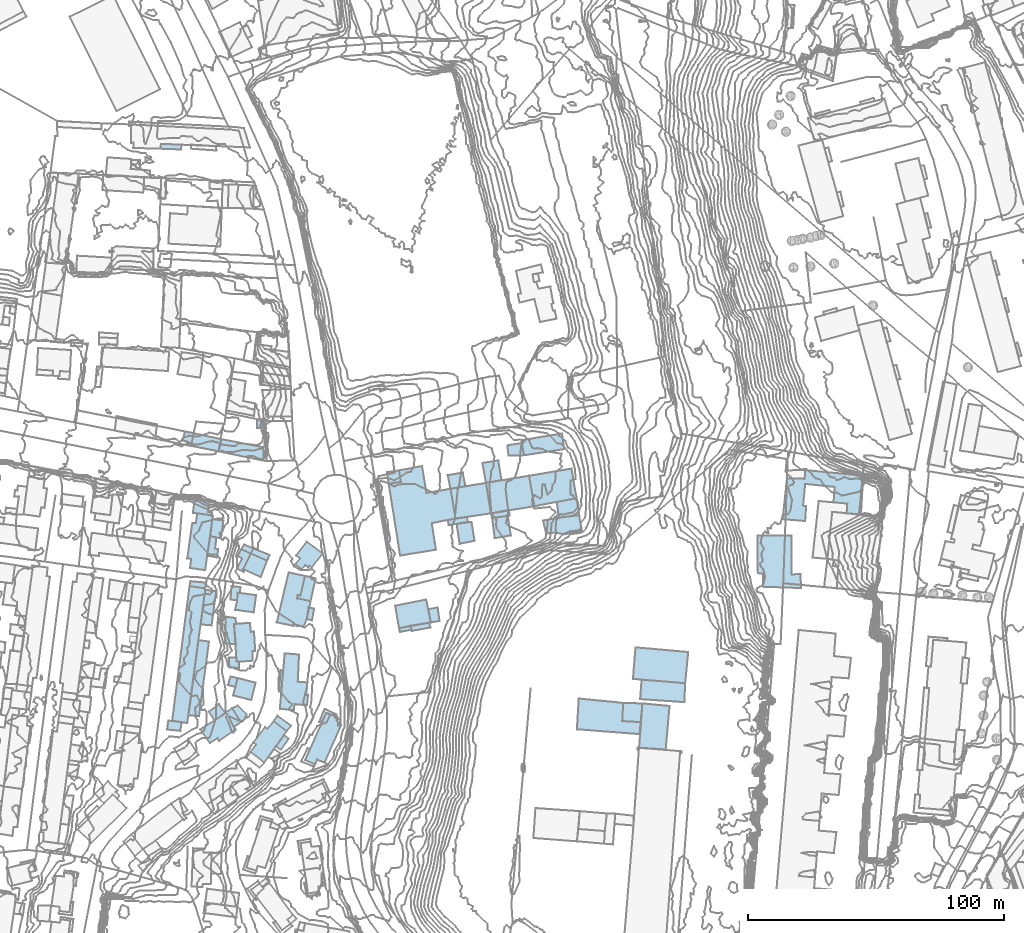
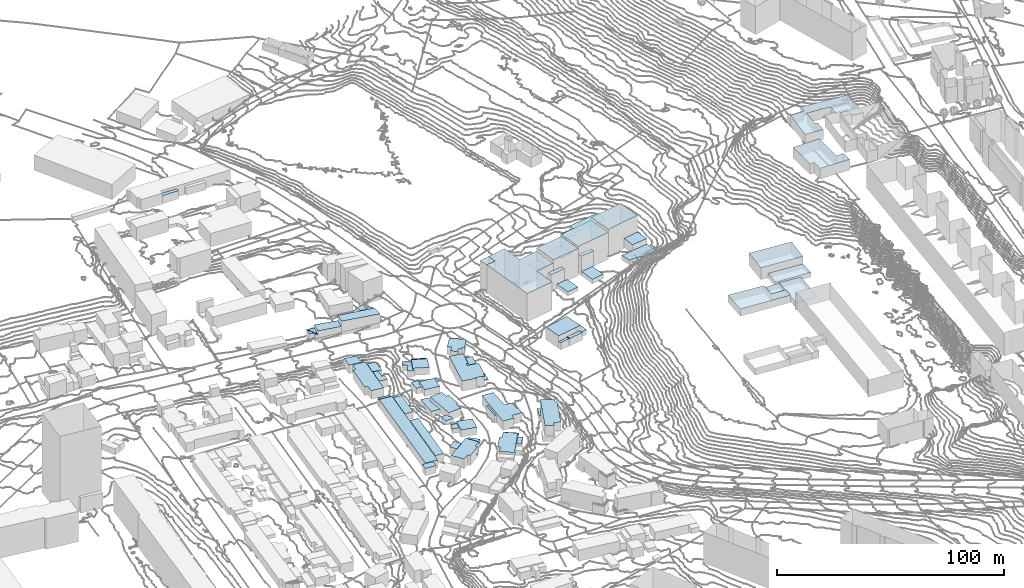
# Not in any storey, part 92 of 419: 65 roofs.
"""IFC2X3 model written with IfcOpenShell, lengths in metres."""

from ifc_helpers import new_model, si_unit, frame, origin_with_axes, place, context, subcontext, project, faceted_brep, element, save


model = new_model("IFC2X3")

# Units and contexts
model_context = context("Model", 3, precision=1e-05, world=origin_with_axes())
body_context = subcontext(model_context, "Body", "Model", "MODEL_VIEW")
ifc_project = project(units=[si_unit("AREAUNIT", "SQUARE_METRE"), si_unit("LENGTHUNIT", "METRE")], contexts=[model_context])

# Roofs
roof_1_placement = place(None, frame((586.9920204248, 808.9976909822, 41.813999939), z_axis=(0.0, 0.0, 1.0), x_axis=(1.0, 0.0, 0.0)))
element("IfcRoof", 1, at=roof_1_placement, Name="Toiture 0", ShapeType="NOTDEFINED", context=body_context, shape_type="Brep", body=[
    faceted_brep([(3.7, 7.2000000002, 4.086000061), (1.2999999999, 7.6000000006, 4.086000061), (0.0, 0.0, 4.086000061), (4.0, -0.5999999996, 4.086000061), (4.4, 2.6000000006, 4.086000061), (3.2, 2.8000000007, 4.086000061)], [[[0, 1, 2]], [[2, 3, 4]], [[5, 0, 2]], [[2, 4, 5]]]),
])
roof_2_placement = place(None, frame((615.4920204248, 749.1976909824, 45.7645987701), z_axis=(0.0, 0.0, 1.0), x_axis=(1.0, 0.0, 0.0)))
element("IfcRoof", 2, at=roof_2_placement, Name="Toiture 0", ShapeType="NOTDEFINED", context=body_context, shape_type="Brep", body=[
    faceted_brep([(1.9, 21.7000000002, 4.9354012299), (1.2999999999, 15.0, 4.9354012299), (0.0, 0.0, 4.9354012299), (5.5, -0.5, 4.9354012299), (5.7, 1.7999999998, 4.9354012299), (10.6, 1.4000000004, 4.9354012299), (11.0, 5.4000000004, 4.9354012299), (10.4, 5.4000000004, 4.9354012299), (10.7, 10.2999999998, 4.9354012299), (7.0, 10.6000000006, 4.9354012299), (7.5, 21.2000000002, 4.9354012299)], [[[0, 1, 2]], [[2, 3, 4]], [[4, 5, 6]], [[7, 8, 9]], [[9, 10, 0]], [[0, 2, 4]], [[4, 6, 7]], [[9, 0, 4]], [[4, 7, 9]]]),
])
roof_3_placement = place(None, frame((625.3920204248, 729.1976909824, 48.9099983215), z_axis=(0.0, 0.0, 1.0), x_axis=(1.0, 0.0, 0.0)))
element("IfcRoof", 3, at=roof_3_placement, Name="Toiture 0", ShapeType="NOTDEFINED", context=body_context, shape_type="Brep", body=[
    faceted_brep([(4.7, 0.1000000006, 7.9900016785), (7.6, -1.0, 7.9900016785), (14.0, 13.7000000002, 7.9900016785), (13.2, 13.9000000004, 7.9900016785), (13.8999999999, 15.5, 7.9900016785), (11.7, 16.5, 7.9900016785), (11.8999999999, 17.0, 7.9900016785), (8.2, 18.4000000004, 7.9900016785), (0.0, 0.0, 7.9900016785), (3.7, -1.7000000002, 7.9900016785)], [[[0, 1, 2]], [[3, 4, 5]], [[5, 6, 7]], [[7, 8, 9]], [[0, 2, 3]], [[3, 5, 7]], [[7, 9, 0]], [[0, 3, 7]]]),
])
roof_4_placement = place(None, frame((580.1920204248, 797.0976909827, 41.4371005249), z_axis=(0.0, 0.0, 1.0), x_axis=(1.0, 0.0, 0.0)))
element("IfcRoof", 4, at=roof_4_placement, Name="Toiture 0", ShapeType="NOTDEFINED", context=body_context, shape_type="Brep", body=[
    faceted_brep([(0.3, 2.0, 3.7628994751), (0.0, 0.0, 3.7628994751), (6.1, -0.7999999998, 3.7628994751), (6.4, 1.3999999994, 3.7628994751)], [[[0, 1, 2]], [[2, 3, 0]]]),
])
roof_5_placement = place(None, frame((811.9920204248, 823.2976909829, 85.8652003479), z_axis=(0.0, 0.0, 1.0), x_axis=(1.0, 0.0, 0.0)))
element("IfcRoof", 5, at=roof_5_placement, Name="Toiture 0", ShapeType="NOTDEFINED", context=body_context, shape_type="Brep", body=[
    faceted_brep([(1.7, 15.8999999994, 5.2347996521), (0.0, 0.0, 5.2347996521), (8.7999999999, -0.7000000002, 5.2347996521), (9.2, 5.0999999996, 5.2347996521), (8.0, 5.2999999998, 5.2347996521), (20.2999999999, 12.5999999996, 5.2347996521), (19.9, 6.5999999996, 5.2347996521), (25.2999999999, 6.0999999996, 5.2347996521), (25.0, 2.2999999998, 5.2347996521), (30.6, 1.6999999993, 5.2347996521), (31.5, 17.0, 5.2347996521), (8.7999999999, 19.1999999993, 5.2347996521), (8.6, 15.7999999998, 5.2347996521), (8.7999999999, 13.7999999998, 5.2347996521)], [[[0, 1, 2]], [[2, 3, 4]], [[5, 6, 7]], [[7, 8, 9]], [[10, 11, 12]], [[0, 2, 4]], [[5, 7, 9]], [[12, 0, 4]], [[5, 9, 10]], [[12, 4, 13]], [[13, 5, 10]], [[10, 12, 13]]]),
])
roof_6_placement = place(None, frame((660.5920204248, 789.4976909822, 54.3660003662), z_axis=(0.0, 0.0, 1.0), x_axis=(1.0, 0.0, 0.0)))
element("IfcRoof", 6, at=roof_6_placement, Name="Toiture 0", ShapeType="NOTDEFINED", context=body_context, shape_type="Brep", body=[
    faceted_brep([(0.0, 0.0, 6.7339996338), (1.5, -8.7999999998, 6.7339996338), (13.9, -6.5, 6.7339996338), (12.1, 2.4000000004, 6.7339996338)], [[[0, 1, 2]], [[2, 3, 0]]]),
])
roof_7_placement = place(None, frame((606.4920204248, 862.0976909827, 44.4979988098), z_axis=(0.0, 0.0, 1.0), x_axis=(1.0, 0.0, 0.0)))
element("IfcRoof", 7, at=roof_7_placement, Name="Toiture 0", ShapeType="NOTDEFINED", context=body_context, shape_type="Brep", body=[
    faceted_brep([(3.5, -3.0, 2.0020011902), (3.2999999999, 0.5, 2.0020011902), (0.0, 0.0, 2.0020011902), (0.1, -3.1000000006, 2.0020011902)], [[[0, 1, 2]], [[2, 3, 0]]]),
])
roof_8_placement = place(None, frame((753.4920204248, 760.8976909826, 71.2763980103), z_axis=(0.0, 0.0, 1.0), x_axis=(1.0, 0.0, 0.0)))
element("IfcRoof", 8, at=roof_8_placement, Name="Toiture 0", ShapeType="NOTDEFINED", context=body_context, shape_type="Brep", body=[
    faceted_brep([(0.0, 0.0, 6.5236019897), (3.4, -0.2999999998, 6.5236019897), (20.4, -1.7000000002, 6.5236019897), (21.6, 10.5, 6.5236019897), (1.0, 12.2999999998, 6.5236019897)], [[[0, 1, 2]], [[2, 3, 4]], [[4, 0, 2]]]),
])
roof_9_placement = place(None, frame((588.2920204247, 816.5976909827, 42.0689992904), z_axis=(0.0, 0.0, 1.0), x_axis=(1.0, 0.0, 0.0)))
element("IfcRoof", 9, at=roof_9_placement, Name="Toiture 0", ShapeType="NOTDEFINED", context=body_context, shape_type="Brep", body=[
    faceted_brep([(5.1000000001, 6.2000000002, 3.7310007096), (0.8, 6.7000000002, 3.7310007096), (0.0, 0.0, 3.7310007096), (4.2000000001, -0.7999999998, 3.7310007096)], [[[0, 1, 2]], [[2, 3, 0]]]),
])
roof_10_placement = place(None, frame((579.7920204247, 746.6976909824, 41.7746002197), z_axis=(0.0, 0.0, 1.0), x_axis=(1.0, 0.0, 0.0)))
element("IfcRoof", 10, at=roof_10_placement, Name="Toiture 0", ShapeType="NOTDEFINED", context=body_context, shape_type="Brep", body=[
    faceted_brep([(3.9, 29.2999999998, 4.3253997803), (0.0, 0.0, 4.3253997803), (4.1000000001, -0.2999999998, 4.3253997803), (8.0, 28.7999999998, 4.3253997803)], [[[0, 1, 2]], [[2, 3, 0]]]),
])
roof_11_placement = place(None, frame((579.2920204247, 807.9976909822, 41.4112002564), z_axis=(0.0, 0.0, 1.0), x_axis=(1.0, 0.0, 0.0)))
element("IfcRoof", 11, at=roof_11_placement, Name="Toiture 0", ShapeType="NOTDEFINED", context=body_context, shape_type="Brep", body=[
    faceted_brep([(10.0, 16.6000000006, 4.5887997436), (9.4, 16.8000000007, 4.5887997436), (3.9, 17.6000000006, 4.5887997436), (3.4, 13.8000000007, 4.5887997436), (2.0, 13.9000000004, 4.5887997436), (0.0, 0.0, 4.5887997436), (1.5, -0.1999999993, 4.5887997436), (1.1000000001, -3.7999999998, 4.5887997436), (7.0, -4.5999999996, 4.5887997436)], [[[0, 1, 2]], [[3, 4, 5]], [[6, 7, 8]], [[8, 0, 2]], [[3, 5, 6]], [[8, 2, 3]], [[3, 6, 8]]]),
])
roof_12_placement = place(None, frame((666.6920204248, 781.6976909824, 54.5365005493), z_axis=(0.0, 0.0, 1.0), x_axis=(1.0, 0.0, 0.0)))
element("IfcRoof", 12, at=roof_12_placement, Name="Toiture 0", ShapeType="NOTDEFINED", context=body_context, shape_type="Brep", body=[
    faceted_brep([(0.0, 0.0, 3.9634994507), (0.3, -1.5999999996, 3.9634994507), (0.4, -2.0, 3.9634994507), (7.6, -0.7000000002, 3.9634994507), (7.2000000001, 1.2000000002, 3.9634994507)], [[[0, 1, 2]], [[2, 3, 4]], [[4, 0, 2]]]),
])
roof_13_placement = place(None, frame((630.8920204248, 743.9976909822, 48.7660001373), z_axis=(0.0, 0.0, 1.0), x_axis=(1.0, 0.0, 0.0)))
element("IfcRoof", 13, at=roof_13_placement, Name="Toiture 0", ShapeType="NOTDEFINED", context=body_context, shape_type="Brep", body=[
    faceted_brep([(2.7, 3.6000000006, 2.7339998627), (6.3999999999, 2.2000000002, 2.7339998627), (6.7999999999, 3.0, 2.7339998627), (2.0, 5.2000000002, 2.7339998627), (0.0, 0.0, 2.7339998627), (0.7999999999, -0.2999999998, 2.7339998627)], [[[0, 1, 2]], [[3, 4, 5]], [[0, 2, 3]], [[3, 5, 0]]]),
])
roof_14_placement = place(None, frame((595.5920204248, 769.1976909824, 45.8778006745), z_axis=(0.0, 0.0, 1.0), x_axis=(1.0, 0.0, 0.0)))
element("IfcRoof", 14, at=roof_14_placement, Name="Toiture 0", ShapeType="NOTDEFINED", context=body_context, shape_type="Brep", body=[
    faceted_brep([(4.0, -4.0, 2.1221993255), (4.0, -1.5999999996, 2.1221993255), (3.0, -1.5999999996, 2.1221993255), (3.0, 0.0, 2.1221993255), (0.0, 0.0, 2.1221993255), (0.2, -3.8999999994, 2.1221993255)], [[[0, 1, 2]], [[2, 3, 4]], [[4, 5, 0]], [[0, 2, 4]]]),
])
roof_15_placement = place(None, frame((613.8920204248, 734.4976909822, 45.300499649), z_axis=(0.0, 0.0, 1.0), x_axis=(1.0, 0.0, 0.0)))
element("IfcRoof", 15, at=roof_15_placement, Name="Toiture 0", ShapeType="NOTDEFINED", context=body_context, shape_type="Brep", body=[
    faceted_brep([(5.0, 3.0, 2.699500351), (3.2999999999, 4.4000000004, 2.699500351), (0.0, 0.0, 2.699500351), (1.8999999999, -1.2999999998, 2.699500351)], [[[0, 1, 2]], [[2, 3, 0]]]),
])
roof_16_placement = place(None, frame((596.7920204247, 749.4976909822, 44.927999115), z_axis=(0.0, 0.0, 1.0), x_axis=(1.0, 0.0, 0.0)))
element("IfcRoof", 16, at=roof_16_placement, Name="Toiture 0", ShapeType="NOTDEFINED", context=body_context, shape_type="Brep", body=[
    faceted_brep([(2.1000000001, 0.9000000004, 2.172000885), (0.0, 0.0, 2.172000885), (3.6000000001, -5.3999999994, 2.172000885), (5.0, -4.0999999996, 2.172000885), (5.6000000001, -2.5999999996, 2.172000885)], [[[0, 1, 2]], [[2, 3, 4]], [[4, 0, 2]]]),
])
roof_17_placement = place(None, frame((622.1920204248, 792.3976909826, 47.4609009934), z_axis=(0.0, 0.0, 1.0), x_axis=(1.0, 0.0, 0.0)))
element("IfcRoof", 17, at=roof_17_placement, Name="Toiture 0", ShapeType="NOTDEFINED", context=body_context, shape_type="Brep", body=[
    faceted_brep([(7.3, 7.7999999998, 2.2390990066), (3.1, 8.7000000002, 2.2390990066), (1.3, 1.0, 2.2390990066), (0.3, 1.2000000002, 2.2390990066), (0.0, 0.0, 2.2390990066), (5.3, -1.0999999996, 2.2390990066)], [[[0, 1, 2]], [[2, 3, 4]], [[5, 0, 2]], [[2, 4, 5]]]),
])
roof_18_placement = place(None, frame((568.7920204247, 968.0976909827, 51.176399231), z_axis=(0.0, 0.0, 1.0), x_axis=(1.0, 0.0, 0.0)))
element("IfcRoof", 18, at=roof_18_placement, Name="Toiture 0", ShapeType="NOTDEFINED", context=body_context, shape_type="Brep", body=[
    faceted_brep([(8.0, -0.2999999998, 4.323600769), (8.3, 1.5999999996, 4.323600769), (0.2000000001, 1.8999999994, 4.323600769), (0.0, 0.0, 4.323600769)], [[[0, 1, 2]], [[2, 3, 0]]]),
])
roof_19_placement = place(None, frame((604.0920204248, 809.8976909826, 47.4525003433), z_axis=(0.0, 0.0, 1.0), x_axis=(1.0, 0.0, 0.0)))
element("IfcRoof", 19, at=roof_19_placement, Name="Toiture 0", ShapeType="NOTDEFINED", context=body_context, shape_type="Brep", body=[
    faceted_brep([(0.0, 0.0, 2.3474996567), (6.4, -2.7999999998, 2.3474996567), (7.3, -0.5999999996, 2.3474996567), (1.0, 2.0, 2.3474996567)], [[[0, 1, 2]], [[2, 3, 0]]]),
])
roof_20_placement = place(None, frame((684.5920204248, 821.3976909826, 54.2764006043), z_axis=(0.0, 0.0, 1.0), x_axis=(1.0, 0.0, 0.0)))
element("IfcRoof", 20, at=roof_20_placement, Name="Toiture 0", ShapeType="NOTDEFINED", context=body_context, shape_type="Brep", body=[
    faceted_brep([(5.8, 0.9000000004, 2.1235993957), (0.0, 0.0, 2.1235993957), (1.2, -7.7000000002, 2.1235993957), (7.0, -6.5, 2.1235993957)], [[[0, 1, 2]], [[2, 3, 0]]]),
])
roof_21_placement = place(None, frame((682.1920204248, 835.1976909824, 53.6968000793), z_axis=(0.0, 0.0, 1.0), x_axis=(1.0, 0.0, 0.0)))
element("IfcRoof", 21, at=roof_21_placement, Name="Toiture 0", ShapeType="NOTDEFINED", context=body_context, shape_type="Brep", body=[
    faceted_brep([(0.0, 0.0, 14.6031999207), (2.0, -11.5999999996, 14.6031999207), (15.8, -9.5999999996, 14.6031999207), (13.9, 2.2999999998, 14.6031999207)], [[[0, 1, 2]], [[2, 3, 0]]]),
])
roof_22_placement = place(None, frame((681.1920204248, 822.9976909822, 53.7519998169), z_axis=(0.0, 0.0, 1.0), x_axis=(1.0, 0.0, 0.0)))
element("IfcRoof", 22, at=roof_22_placement, Name="Toiture 0", ShapeType="NOTDEFINED", context=body_context, shape_type="Brep", body=[
    faceted_brep([(7.5, 1.2000000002, 8.9480001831), (0.0, 0.0, 8.9480001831), (0.3, -2.0, 8.9480001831), (7.7000000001, -0.7999999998, 8.9480001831)], [[[0, 1, 2]], [[2, 3, 0]]]),
])
roof_23_placement = place(None, frame((577.5920204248, 853.9976909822, 43.6050014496), z_axis=(0.0, 0.0, 1.0), x_axis=(1.0, 0.0, 0.0)))
element("IfcRoof", 23, at=roof_23_placement, Name="Toiture 0", ShapeType="NOTDEFINED", context=body_context, shape_type="Brep", body=[
    faceted_brep([(3.2, -2.0, 3.6949985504), (4.2, 2.9000000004, 3.6949985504), (0.7, 3.6000000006, 3.6949985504), (0.0, 0.0, 3.6949985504), (2.3, -0.5, 3.6949985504), (2.1, -1.7999999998, 3.6949985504)], [[[0, 1, 2]], [[2, 3, 4]], [[4, 5, 0]], [[0, 2, 4]]]),
])
roof_24_placement = place(None, frame((755.8920204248, 733.9976909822, 71.4249992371), z_axis=(0.0, 0.0, 1.0), x_axis=(1.0, 0.0, 0.0)))
element("IfcRoof", 24, at=roof_24_placement, Name="Toiture 0", ShapeType="NOTDEFINED", context=body_context, shape_type="Brep", body=[
    faceted_brep([(0.0, 0.0, 2.8750007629), (10.3999999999, -0.6999999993, 2.8750007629), (11.8999999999, 16.3000000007, 2.8750007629), (1.2999999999, 17.3000000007, 2.8750007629)], [[[0, 1, 2]], [[2, 3, 0]]]),
])
roof_25_placement = place(None, frame((696.0920204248, 837.4976909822, 54.8805000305), z_axis=(0.0, 0.0, 1.0), x_axis=(1.0, 0.0, 0.0)))
element("IfcRoof", 25, at=roof_25_placement, Name="Toiture 0", ShapeType="NOTDEFINED", context=body_context, shape_type="Brep", body=[
    faceted_brep([(16.8, 2.8000000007, 14.5194999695), (0.0, 0.0, 14.5194999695), (1.9, -11.8999999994, 14.5194999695), (18.9, -9.0999999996, 14.5194999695)], [[[0, 1, 2]], [[2, 3, 0]]]),
])
roof_26_placement = place(None, frame((595.1920204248, 758.4976909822, 45.4780004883), z_axis=(0.0, 0.0, 1.0), x_axis=(1.0, 0.0, 0.0)))
element("IfcRoof", 26, at=roof_26_placement, Name="Toiture 0", ShapeType="NOTDEFINED", context=body_context, shape_type="Brep", body=[
    faceted_brep([(0.0, 0.0, 2.5219995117), (2.9, -0.7999999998, 2.5219995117), (3.8, 2.7000000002, 2.5219995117), (1.0, 3.3000000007, 2.5219995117)], [[[0, 1, 2]], [[2, 3, 0]]]),
])
roof_27_placement = place(None, frame((600.2920204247, 811.4976909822, 47.4525003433), z_axis=(0.0, 0.0, 1.0), x_axis=(1.0, 0.0, 0.0)))
element("IfcRoof", 27, at=roof_27_placement, Name="Toiture 0", ShapeType="NOTDEFINED", context=body_context, shape_type="Brep", body=[
    faceted_brep([(3.8, -1.5999999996, 0.5474996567), (4.8, 0.4000000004, 0.5474996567), (1.3, 1.9000000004, 0.5474996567), (0.0, 0.0, 0.5474996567)], [[[0, 1, 2]], [[2, 3, 0]]]),
])
roof_28_placement = place(None, frame((581.4920204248, 825.7976909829, 41.6546007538), z_axis=(0.0, 0.0, 1.0), x_axis=(1.0, 0.0, 0.0)))
element("IfcRoof", 28, at=roof_28_placement, Name="Toiture 0", ShapeType="NOTDEFINED", context=body_context, shape_type="Brep", body=[
    faceted_brep([(6.0, 0.2999999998, 4.6453992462), (6.5, 4.3999999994, 4.6453992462), (0.7999999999, 5.5999999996, 4.6453992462), (0.0, 0.0, 4.6453992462), (7.2, -1.0, 4.6453992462), (7.5, 0.0999999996, 4.6453992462)], [[[0, 1, 2]], [[2, 3, 4]], [[4, 5, 0]], [[0, 2, 4]]]),
])
roof_29_placement = place(None, frame((756.2920204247, 752.9976909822, 71.2763980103), z_axis=(0.0, 0.0, 1.0), x_axis=(1.0, 0.0, 0.0)))
element("IfcRoof", 29, at=roof_29_placement, Name="Toiture 0", ShapeType="NOTDEFINED", context=body_context, shape_type="Brep", body=[
    faceted_brep([(17.6000000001, 6.2000000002, 2.5236019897), (0.6000000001, 7.6000000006, 2.5236019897), (0.0, 0.0, 2.5236019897), (17.3, -1.1999999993, 2.5236019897)], [[[0, 1, 2]], [[2, 3, 0]]]),
])
roof_30_placement = place(None, frame((596.1920204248, 791.8976909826, 46.0429992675), z_axis=(0.0, 0.0, 1.0), x_axis=(1.0, 0.0, 0.0)))
element("IfcRoof", 30, at=roof_30_placement, Name="Toiture 0", ShapeType="NOTDEFINED", context=body_context, shape_type="Brep", body=[
    faceted_brep([(0.0, 0.0, 3.1570007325), (2.6, -0.2999999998, 3.1570007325), (2.8, 2.7000000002, 3.1570007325), (3.7000000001, 2.5, 3.1570007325), (3.9, 4.9000000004, 3.1570007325), (0.4, 5.2000000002, 3.1570007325)], [[[0, 1, 2]], [[2, 3, 4]], [[4, 5, 0]], [[0, 2, 4]]]),
])
roof_31_placement = place(None, frame((658.0920204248, 837.0976909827, 51.3250007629), z_axis=(0.0, 0.0, 1.0), x_axis=(1.0, 0.0, 0.0)))
element("IfcRoof", 31, at=roof_31_placement, Name="Toiture 0", ShapeType="NOTDEFINED", context=body_context, shape_type="Brep", body=[
    faceted_brep([(4.7, 0.7999999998, 15.1749992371), (0.0, 0.0, 15.1749992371), (4.4, -28.0, 15.1749992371), (18.4, -25.7000000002, 15.1749992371), (16.8, -15.2999999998, 15.1749992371), (26.1, -13.5, 15.1749992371), (24.1, -1.9000000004, 15.1749992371), (14.7, -3.5, 15.1749992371), (13.0, 7.0, 15.1749992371), (4.0, 5.2999999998, 15.1749992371)], [[[0, 1, 2]], [[2, 3, 4]], [[4, 5, 6]], [[7, 8, 9]], [[0, 2, 4]], [[4, 6, 7]], [[7, 9, 0]], [[0, 4, 7]]]),
])
roof_32_placement = place(None, frame((731.5920204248, 741.1976909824, 71.3399963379), z_axis=(0.0, 0.0, 1.0), x_axis=(1.0, 0.0, 0.0)))
element("IfcRoof", 32, at=roof_32_placement, Name="Toiture 0", ShapeType="NOTDEFINED", context=body_context, shape_type="Brep", body=[
    faceted_brep([(0.0, 0.0, 3.8600036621), (24.5, -1.8999999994, 3.8600036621), (24.9, 2.7999999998, 3.8600036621), (17.7, 3.2000000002, 3.8600036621), (18.1, 10.2999999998, 3.8600036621), (0.7, 12.0, 3.8600036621)], [[[0, 1, 2]], [[3, 4, 5]], [[0, 2, 3]], [[3, 5, 0]]]),
])
roof_33_placement = place(None, frame((802.1920204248, 816.8976909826, 85.8012005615), z_axis=(0.0, 0.0, 1.0), x_axis=(1.0, 0.0, 0.0)))
element("IfcRoof", 33, at=roof_33_placement, Name="Toiture 0", ShapeType="NOTDEFINED", context=body_context, shape_type="Brep", body=[
    faceted_brep([(13.3, 0.0, 5.6987994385), (0.0, 0.0, 5.6987994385), (0.1, -14.7000000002, 5.6987994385), (2.1, -14.7999999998, 5.6987994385), (2.2000000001, -20.0, 5.6987994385), (17.0, -20.5, 5.6987994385), (16.8, -15.0, 5.6987994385), (13.2000000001, -15.2000000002, 5.6987994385)], [[[0, 1, 2]], [[3, 4, 5]], [[5, 6, 7]], [[7, 0, 2]], [[3, 5, 7]], [[7, 2, 3]]]),
])
roof_34_placement = place(None, frame((749.2920204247, 744.3976909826, 71.3581008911), z_axis=(0.0, 0.0, 1.0), x_axis=(1.0, 0.0, 0.0)))
element("IfcRoof", 34, at=roof_34_placement, Name="Toiture 0", ShapeType="NOTDEFINED", context=body_context, shape_type="Brep", body=[
    faceted_brep([(7.2000000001, -0.4000000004, 2.7418991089), (7.9, 6.9000000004, 2.7418991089), (0.4, 7.0999999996, 2.7418991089), (0.0, 0.0, 2.7418991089)], [[[0, 1, 2]], [[2, 3, 0]]]),
])
roof_35_placement = place(None, frame((698.4920204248, 823.7976909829, 54.6379997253), z_axis=(0.0, 0.0, 1.0), x_axis=(1.0, 0.0, 0.0)))
element("IfcRoof", 35, at=roof_35_placement, Name="Toiture 0", ShapeType="NOTDEFINED", context=body_context, shape_type="Brep", body=[
    faceted_brep([(6.1, 0.7999999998, 2.3620002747), (0.0, 0.0, 2.3620002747), (1.0, -7.9000000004, 2.3620002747), (7.2999999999, -6.8000000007, 2.3620002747)], [[[0, 1, 2]], [[2, 3, 0]]]),
])
roof_36_placement = place(None, frame((712.8920204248, 840.2976909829, 56.627100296), z_axis=(0.0, 0.0, 1.0), x_axis=(1.0, 0.0, 0.0)))
element("IfcRoof", 36, at=roof_36_placement, Name="Toiture 0", ShapeType="NOTDEFINED", context=body_context, shape_type="Brep", body=[
    faceted_brep([(10.8999999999, -10.2000000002, 14.272899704), (18.6, -8.8000000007, 14.272899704), (16.6, 2.7999999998, 14.272899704), (0.0, 0.0, 14.272899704), (2.1, -11.9000000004, 14.272899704)], [[[0, 1, 2]], [[2, 3, 4]], [[4, 0, 2]]]),
])
roof_37_placement = place(None, frame((723.7920204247, 830.0976909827, 57.0904008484), z_axis=(0.0, 0.0, 1.0), x_axis=(1.0, 0.0, 0.0)))
element("IfcRoof", 37, at=roof_37_placement, Name="Toiture 0", ShapeType="NOTDEFINED", context=body_context, shape_type="Brep", body=[
    faceted_brep([(8.7000000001, -5.2000000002, 4.9095991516), (7.7000000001, 1.3999999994, 4.9095991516), (0.0, 0.0, 4.9095991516), (0.7000000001, -6.2000000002, 4.9095991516)], [[[0, 1, 2]], [[2, 3, 0]]]),
])
roof_38_placement = place(None, frame((704.3920204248, 852.1976909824, 55.3128010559), z_axis=(0.0, 0.0, 1.0), x_axis=(1.0, 0.0, 0.0)))
element("IfcRoof", 38, at=roof_38_placement, Name="Toiture 0", ShapeType="NOTDEFINED", context=body_context, shape_type="Brep", body=[
    faceted_brep([(6.6, -3.8999999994, 2.3871989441), (5.7, 0.9000000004, 2.3871989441), (0.0, 0.0, 2.3871989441), (0.5, -4.0, 2.3871989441)], [[[0, 1, 2]], [[2, 3, 0]]]),
])
roof_39_placement = place(None, frame((681.0920204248, 840.4976909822, 53.3359985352), z_axis=(0.0, 0.0, 1.0), x_axis=(1.0, 0.0, 0.0)))
element("IfcRoof", 39, at=roof_39_placement, Name="Toiture 0", ShapeType="NOTDEFINED", context=body_context, shape_type="Brep", body=[
    faceted_brep([(0.0, 0.0, 3.1640014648), (1.1, -5.2999999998, 3.1640014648), (6.9, -4.2999999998, 3.1640014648), (5.9, 1.1000000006, 3.1640014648)], [[[0, 1, 2]], [[2, 3, 0]]]),
])
roof_40_placement = place(None, frame((694.6920204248, 845.2976909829, 54.630899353), z_axis=(0.0, 0.0, 1.0), x_axis=(1.0, 0.0, 0.0)))
element("IfcRoof", 40, at=roof_40_placement, Name="Toiture 0", ShapeType="NOTDEFINED", context=body_context, shape_type="Brep", body=[
    faceted_brep([(0.0, 0.0, 1.769100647), (1.4, -7.8000000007, 1.769100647), (7.4, -6.7000000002, 1.769100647), (6.2000000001, 1.0, 1.769100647)], [[[0, 1, 2]], [[2, 3, 0]]]),
])
roof_41_placement = place(None, frame((597.9920204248, 787.8976909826, 46.6319999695), z_axis=(0.0, 0.0, 1.0), x_axis=(1.0, 0.0, 0.0)))
element("IfcRoof", 41, at=roof_41_placement, Name="Toiture 0", ShapeType="NOTDEFINED", context=body_context, shape_type="Brep", body=[
    faceted_brep([(0.7999999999, 3.7000000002, 3.5680000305), (0.0, 0.0, 3.5680000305), (7.2999999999, -1.0, 3.5680000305), (8.2, 5.7000000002, 3.5680000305), (1.0, 6.7000000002, 3.5680000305)], [[[0, 1, 2]], [[2, 3, 4]], [[4, 0, 2]]]),
])
roof_42_placement = place(None, frame((614.2920204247, 782.9976909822, 46.7222002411), z_axis=(0.0, 0.0, 1.0), x_axis=(1.0, 0.0, 0.0)))
element("IfcRoof", 42, at=roof_42_placement, Name="Toiture 0", ShapeType="NOTDEFINED", context=body_context, shape_type="Brep", body=[
    faceted_brep([(6.5, -0.6999999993, 5.4777997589), (10.4, -1.6999999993, 5.4777997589), (11.7000000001, 1.3000000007, 5.4777997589), (13.2000000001, 8.3000000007, 5.4777997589), (7.9, 9.4000000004, 5.4777997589), (8.2000000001, 10.6000000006, 5.4777997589), (9.2000000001, 10.4000000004, 5.4777997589), (11.0, 18.1000000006, 5.4777997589), (4.6000000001, 19.5, 5.4777997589), (0.0, 0.0, 5.4777997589), (6.5, -1.3999999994, 5.4777997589)], [[[0, 1, 2]], [[2, 3, 4]], [[5, 6, 7]], [[7, 8, 9]], [[9, 10, 0]], [[0, 2, 4]], [[5, 7, 9]], [[9, 0, 4]], [[4, 5, 9]]]),
])
roof_43_placement = place(None, frame((584.5920204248, 782.1976909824, 41.7473012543), z_axis=(0.0, 0.0, 1.0), x_axis=(1.0, 0.0, 0.0)))
element("IfcRoof", 43, at=roof_43_placement, Name="Toiture 0", ShapeType="NOTDEFINED", context=body_context, shape_type="Brep", body=[
    faceted_brep([(6.0, 13.0, 3.6526987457), (1.7, 13.5, 3.6526987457), (0.0, 0.0, 3.6526987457), (4.2, -0.3999999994, 3.6526987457)], [[[0, 1, 2]], [[2, 3, 0]]]),
])
roof_44_placement = place(None, frame((615.1920204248, 755.8976909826, 45.9370002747), z_axis=(0.0, 0.0, 1.0), x_axis=(1.0, 0.0, 0.0)))
element("IfcRoof", 44, at=roof_44_placement, Name="Toiture 0", ShapeType="NOTDEFINED", context=body_context, shape_type="Brep", body=[
    faceted_brep([(1.6, 8.2999999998, 3.8629997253), (0.6, 8.4000000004, 3.8629997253), (0.0, 0.0, 3.8629997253), (0.9, -0.0999999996, 3.8629997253)], [[[0, 1, 2]], [[2, 3, 0]]]),
])
roof_45_placement = place(None, frame((591.4920204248, 849.7976909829, 44.3993997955), z_axis=(0.0, 0.0, 1.0), x_axis=(1.0, 0.0, 0.0)))
element("IfcRoof", 45, at=roof_45_placement, Name="Toiture 0", ShapeType="NOTDEFINED", context=body_context, shape_type="Brep", body=[
    faceted_brep([(0.0, 0.0, 7.4006002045), (17.6, -3.6000000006, 7.4006002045), (17.6, 1.5999999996, 7.4006002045), (1.0, 4.7999999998, 7.4006002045)], [[[0, 1, 2]], [[2, 3, 0]]]),
])
roof_46_placement = place(None, frame((657.2920204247, 841.6976909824, 50.9186004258), z_axis=(0.0, 0.0, 1.0), x_axis=(1.0, 0.0, 0.0)))
element("IfcRoof", 46, at=roof_46_placement, Name="Toiture 0", ShapeType="NOTDEFINED", context=body_context, shape_type="Brep", body=[
    faceted_brep([(0.0, 0.0, 15.4813995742), (0.8, -4.5999999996, 15.4813995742), (5.5, -3.7999999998, 15.4813995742), (4.8, 0.7000000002, 15.4813995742)], [[[0, 1, 2]], [[2, 3, 0]]]),
])
roof_47_placement = place(None, frame((718.3920204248, 822.7976909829, 56.6787989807), z_axis=(0.0, 0.0, 1.0), x_axis=(1.0, 0.0, 0.0)))
element("IfcRoof", 47, at=roof_47_placement, Name="Toiture 0", ShapeType="NOTDEFINED", context=body_context, shape_type="Brep", body=[
    faceted_brep([(14.1, 2.0999999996, 2.4212010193), (6.1, 1.0999999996, 2.4212010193), (0.0, 0.0, 2.4212010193), (1.2, -5.1000000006, 2.4212010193), (4.6, -4.7000000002, 2.4212010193), (7.8999999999, -5.4000000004, 2.4212010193), (15.1, -4.1000000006, 2.4212010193)], [[[0, 1, 2]], [[2, 3, 4]], [[4, 5, 6]], [[6, 0, 2]], [[2, 4, 6]]]),
])
roof_48_placement = place(None, frame((573.3920204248, 744.4976909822, 41.4899991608), z_axis=(0.0, 0.0, 1.0), x_axis=(1.0, 0.0, 0.0)))
element("IfcRoof", 48, at=roof_48_placement, Name="Toiture 0", ShapeType="NOTDEFINED", context=body_context, shape_type="Brep", body=[
    faceted_brep([(3.7, -0.5, 4.3100008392), (5.8999999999, -0.8999999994, 4.3100008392), (12.8999999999, 51.2000000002, 4.3100008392), (12.8999999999, 51.8000000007, 4.3100008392), (6.7999999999, 52.6000000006, 4.3100008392), (0.0, 0.0, 4.3100008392)], [[[0, 1, 2]], [[2, 3, 4]], [[4, 5, 0]], [[0, 2, 4]]]),
])
roof_49_placement = place(None, frame((621.4920204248, 805.5976909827, 47.9875999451), z_axis=(0.0, 0.0, 1.0), x_axis=(1.0, 0.0, 0.0)))
element("IfcRoof", 49, at=roof_49_placement, Name="Toiture 0", ShapeType="NOTDEFINED", context=body_context, shape_type="Brep", body=[
    faceted_brep([(1.7999999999, 2.3999999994, 4.1124000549), (0.0, 0.0, 4.1124000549), (2.5, -1.7999999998, 4.1124000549), (3.9, -0.2000000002, 4.1124000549), (5.0, -1.1000000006, 4.1124000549), (5.4, -0.5, 4.1124000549), (6.4, -1.2000000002, 4.1124000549), (10.6, 4.2999999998, 4.1124000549), (4.5, 8.8999999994, 4.1124000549), (0.2999999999, 3.5, 4.1124000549)], [[[0, 1, 2]], [[3, 4, 5]], [[5, 6, 7]], [[7, 8, 9]], [[0, 2, 3]], [[3, 5, 7]], [[7, 9, 0]], [[0, 3, 7]]]),
])
roof_50_placement = place(None, frame((580.7920204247, 851.9976909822, 43.8009998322), z_axis=(0.0, 0.0, 1.0), x_axis=(1.0, 0.0, 0.0)))
element("IfcRoof", 50, at=roof_50_placement, Name="Toiture 0", ShapeType="NOTDEFINED", context=body_context, shape_type="Brep", body=[
    faceted_brep([(11.7000000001, 2.6000000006, 5.1990001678), (1.0, 4.9000000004, 5.1990001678), (0.0, 0.0, 5.1990001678), (10.7000000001, -2.1999999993, 5.1990001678)], [[[0, 1, 2]], [[2, 3, 0]]]),
])
roof_51_placement = place(None, frame((598.6920204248, 803.8976909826, 47.1650007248), z_axis=(0.0, 0.0, 1.0), x_axis=(1.0, 0.0, 0.0)))
element("IfcRoof", 51, at=roof_51_placement, Name="Toiture 0", ShapeType="NOTDEFINED", context=body_context, shape_type="Brep", body=[
    faceted_brep([(2.7000000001, -1.2000000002, 3.2349992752), (3.1, -0.4000000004, 3.2349992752), (2.5, -0.0999999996, 3.2349992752), (5.4, 6.0, 3.2349992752), (1.6, 7.5999999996, 3.2349992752), (0.3, 5.0, 3.2349992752), (2.0, 4.0999999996, 3.2349992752), (0.0, 0.0, 3.2349992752)], [[[0, 1, 2]], [[2, 3, 4]], [[4, 5, 6]], [[7, 0, 2]], [[2, 4, 6]], [[6, 7, 2]]]),
])
roof_52_placement = place(None, frame((601.1920204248, 803.7976909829, 47.1959999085), z_axis=(0.0, 0.0, 1.0), x_axis=(1.0, 0.0, 0.0)))
element("IfcRoof", 52, at=roof_52_placement, Name="Toiture 0", ShapeType="NOTDEFINED", context=body_context, shape_type="Brep", body=[
    faceted_brep([(6.8, -3.1000000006, 3.8040000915), (9.3, 3.2999999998, 3.8040000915), (2.9, 6.0999999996, 3.8040000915), (0.0, 0.0, 3.8040000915)], [[[0, 1, 2]], [[2, 3, 0]]]),
])
roof_53_placement = place(None, frame((593.9920204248, 774.6976909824, 44.7739998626), z_axis=(0.0, 0.0, 1.0), x_axis=(1.0, 0.0, 0.0)))
element("IfcRoof", 53, at=roof_53_placement, Name="Toiture 0", ShapeType="NOTDEFINED", context=body_context, shape_type="Brep", body=[
    faceted_brep([(0.0, 0.0, 3.1260001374), (4.2999999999, -0.2000000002, 3.1260001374), (3.6, 7.7000000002, 3.1260001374), (4.4, 7.6000000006, 3.1260001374), (4.2, 10.0, 3.1260001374), (0.4, 10.5, 3.1260001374)], [[[0, 1, 2]], [[2, 3, 4]], [[4, 5, 0]], [[0, 2, 4]]]),
])
roof_54_placement = place(None, frame((597.1920204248, 754.3976909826, 45.388199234), z_axis=(0.0, 0.0, 1.0), x_axis=(1.0, 0.0, 0.0)))
element("IfcRoof", 54, at=roof_54_placement, Name="Toiture 0", ShapeType="NOTDEFINED", context=body_context, shape_type="Brep", body=[
    faceted_brep([(0.9, 3.2999999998, 3.811800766), (0.0, 0.0, 3.811800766), (7.1, -1.7999999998, 3.811800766), (8.8, 5.0, 3.811800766), (1.8, 6.7999999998, 3.811800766)], [[[0, 1, 2]], [[2, 3, 4]], [[4, 0, 2]]]),
])
roof_55_placement = place(None, frame((584.3920204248, 741.1976909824, 42.7331997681), z_axis=(0.0, 0.0, 1.0), x_axis=(1.0, 0.0, 0.0)))
element("IfcRoof", 55, at=roof_55_placement, Name="Toiture 0", ShapeType="NOTDEFINED", context=body_context, shape_type="Brep", body=[
    faceted_brep([(5.6, 3.5, 5.2668002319), (0.0, 0.0, 5.2668002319), (3.7999999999, -5.2999999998, 5.2668002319), (6.7, -3.3999999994, 5.2668002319), (7.3999999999, -4.5, 5.2668002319), (13.7999999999, 0.0, 5.2668002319), (13.2, 1.1000000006, 5.2668002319), (16.0, 2.9000000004, 5.2668002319), (12.3999999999, 8.2999999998, 5.2668002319)], [[[0, 1, 2]], [[3, 4, 5]], [[6, 7, 8]], [[8, 0, 2]], [[3, 5, 6]], [[6, 8, 2]], [[2, 3, 6]]]),
])
roof_56_placement = place(None, frame((587.7920204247, 748.1976909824, 43.3900001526), z_axis=(0.0, 0.0, 1.0), x_axis=(1.0, 0.0, 0.0)))
element("IfcRoof", 56, at=roof_56_placement, Name="Toiture 0", ShapeType="NOTDEFINED", context=body_context, shape_type="Brep", body=[
    faceted_brep([(0.0, 0.0, 3.8099998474), (2.2000000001, -3.5, 3.8099998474), (6.4, -0.7000000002, 3.8099998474), (3.9, 2.9000000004, 3.8099998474)], [[[0, 1, 2]], [[2, 3, 0]]]),
])
roof_57_placement = place(None, frame((603.9920204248, 732.2976909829, 45.0269996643), z_axis=(0.0, 0.0, 1.0), x_axis=(1.0, 0.0, 0.0)))
element("IfcRoof", 57, at=roof_57_placement, Name="Toiture 0", ShapeType="NOTDEFINED", context=body_context, shape_type="Brep", body=[
    faceted_brep([(0.0, 0.0, 3.6730003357), (5.4, -4.1000000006, 3.6730003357), (14.1, 8.1999999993, 3.6730003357), (9.0, 12.0, 3.6730003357), (6.5, 9.0999999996, 3.6730003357), (5.7, 9.6999999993, 3.6730003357), (1.1, 3.6999999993, 3.6730003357), (2.1, 2.8999999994, 3.6730003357)], [[[0, 1, 2]], [[2, 3, 4]], [[4, 5, 6]], [[7, 0, 2]], [[2, 4, 6]], [[6, 7, 2]]]),
])
roof_58_placement = place(None, frame((625.9920204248, 784.2976909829, 47.115200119), z_axis=(0.0, 0.0, 1.0), x_axis=(1.0, 0.0, 0.0)))
element("IfcRoof", 58, at=roof_58_placement, Name="Toiture 0", ShapeType="NOTDEFINED", context=body_context, shape_type="Brep", body=[
    faceted_brep([(2.9, 4.0, 0.884799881), (0.7999999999, 4.5999999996, 0.884799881), (0.0, 0.0, 0.884799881), (2.0, -0.5, 0.884799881)], [[[0, 1, 2]], [[2, 3, 0]]]),
])
roof_59_placement = place(None, frame((662.0920204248, 780.6976909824, 54.373999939), z_axis=(0.0, 0.0, 1.0), x_axis=(1.0, 0.0, 0.0)))
element("IfcRoof", 59, at=roof_59_placement, Name="Toiture 0", ShapeType="NOTDEFINED", context=body_context, shape_type="Brep", body=[
    faceted_brep([(0.3, -1.3999999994, 3.826000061), (4.9, -0.5999999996, 3.826000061), (4.6, 1.0, 3.826000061), (0.0, 0.0, 3.826000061)], [[[0, 1, 2]], [[2, 3, 0]]]),
])
roof_60_placement = place(None, frame((612.9920204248, 744.2976909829, 45.513600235), z_axis=(0.0, 0.0, 1.0), x_axis=(1.0, 0.0, 0.0)))
element("IfcRoof", 60, at=roof_60_placement, Name="Toiture 0", ShapeType="NOTDEFINED", context=body_context, shape_type="Brep", body=[
    faceted_brep([(0.0, 0.0, 1.386399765), (5.1, -3.8000000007, 1.386399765), (6.9, -1.7000000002, 1.386399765), (1.5, 2.1999999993, 1.386399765)], [[[0, 1, 2]], [[2, 3, 0]]]),
])
roof_61_placement = place(None, frame((571.3920204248, 741.0976909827, 41.7127996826), z_axis=(0.0, 0.0, 1.0), x_axis=(1.0, 0.0, 0.0)))
element("IfcRoof", 61, at=roof_61_placement, Name="Toiture 0", ShapeType="NOTDEFINED", context=body_context, shape_type="Brep", body=[
    faceted_brep([(5.2, -0.5, 3.8872003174), (5.7, 2.8999999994, 3.8872003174), (0.5, 3.5, 3.8872003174), (0.0, 0.0, 3.8872003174)], [[[0, 1, 2]], [[2, 3, 0]]]),
])
roof_62_placement = place(None, frame((697.9920204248, 825.5976909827, 54.8258005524), z_axis=(0.0, 0.0, 1.0), x_axis=(1.0, 0.0, 0.0)))
element("IfcRoof", 62, at=roof_62_placement, Name="Toiture 0", ShapeType="NOTDEFINED", context=body_context, shape_type="Brep", body=[
    faceted_brep([(7.1, 1.2999999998, 10.1741994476), (0.0, 0.0, 10.1741994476), (0.5, -1.7999999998, 10.1741994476), (7.2999999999, -0.9000000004, 10.1741994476)], [[[0, 1, 2]], [[2, 3, 0]]]),
])
roof_63_placement = place(None, frame((673.5920204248, 788.1976909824, 54.6268000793), z_axis=(0.0, 0.0, 1.0), x_axis=(1.0, 0.0, 0.0)))
element("IfcRoof", 63, at=roof_63_placement, Name="Toiture 0", ShapeType="NOTDEFINED", context=body_context, shape_type="Brep", body=[
    faceted_brep([(3.6, 0.6000000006, 2.5731999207), (0.0, 0.0, 2.5731999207), (0.9, -5.2000000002, 2.5731999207), (4.3, -4.7000000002, 2.5731999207)], [[[0, 1, 2]], [[2, 3, 0]]]),
])
roof_64_placement = place(None, frame((597.5920204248, 782.3976909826, 46.0352000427), z_axis=(0.0, 0.0, 1.0), x_axis=(1.0, 0.0, 0.0)))
element("IfcRoof", 64, at=roof_64_placement, Name="Toiture 0", ShapeType="NOTDEFINED", context=body_context, shape_type="Brep", body=[
    faceted_brep([(1.0, -14.7999999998, 3.9647999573), (2.0, -14.7999999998, 3.9647999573), (7.3, -14.4000000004, 3.9647999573), (7.2, -10.7000000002, 3.9647999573), (8.3, -10.7000000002, 3.9647999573), (7.8, -3.0, 3.9647999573), (6.6, -3.0999999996, 3.9647999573), (6.2, 0.4000000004, 3.9647999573), (0.0, 0.0, 3.9647999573)], [[[0, 1, 2]], [[3, 4, 5]], [[6, 7, 8]], [[8, 0, 2]], [[3, 5, 6]], [[6, 8, 2]], [[2, 3, 6]]]),
])
roof_65_placement = place(None, frame((709.8920204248, 854.1976909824, 55.8783997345), z_axis=(0.0, 0.0, 1.0), x_axis=(1.0, 0.0, 0.0)))
element("IfcRoof", 65, at=roof_65_placement, Name="Toiture 0", ShapeType="NOTDEFINED", context=body_context, shape_type="Brep", body=[
    faceted_brep([(0.0, 0.0, 3.0216002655), (0.2, -1.0999999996, 3.0216002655), (1.1, -5.8999999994, 3.0216002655), (16.7, -3.5, 3.0216002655), (15.8999999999, 2.6000000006, 3.0216002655)], [[[0, 1, 2]], [[2, 3, 4]], [[4, 0, 2]]]),
])

save(model, "model.ifc")
